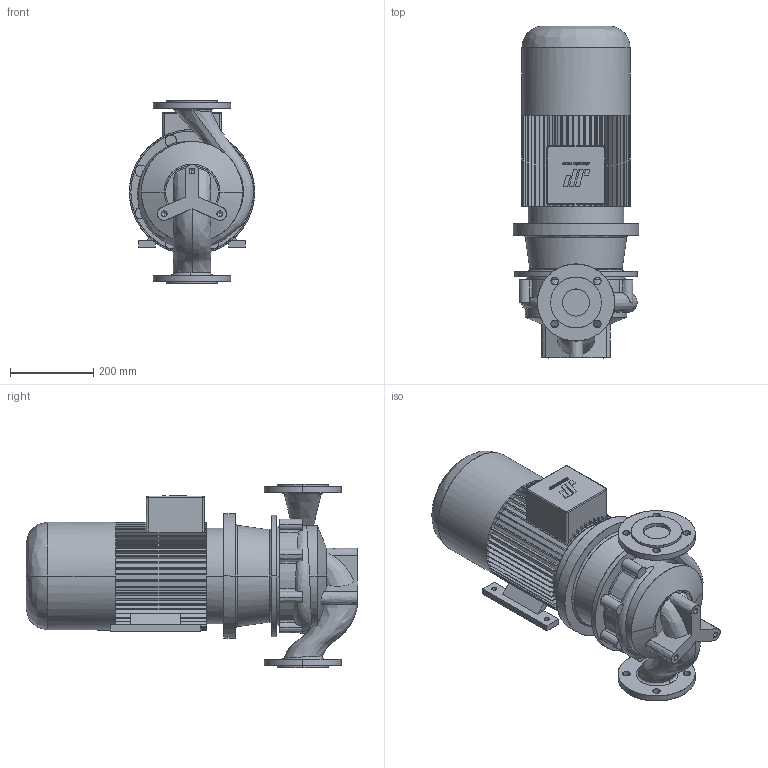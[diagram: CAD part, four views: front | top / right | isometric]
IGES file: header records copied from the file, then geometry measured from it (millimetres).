
Start section: CombiLine
Global section: file name: CLB_65-200_IEC132M_ND10.igs; native system:  By UGS Corp.; preprocessor: XPlus GENERIC/IGES 3.0; author: Stageplaats; organization: Johnson Pump Water B.V.; date: 20070716.132015; units: millimetre
Bounding box: 300 x 795.5 x 440 mm (x, y, z)
Surface area: 1367089.2 mm2 (no closed solid volume)
Topology: 0 solids, 0 shells, 584 faces, 3538 edges, 3532 vertices
Faces by surface type: bspline 584
